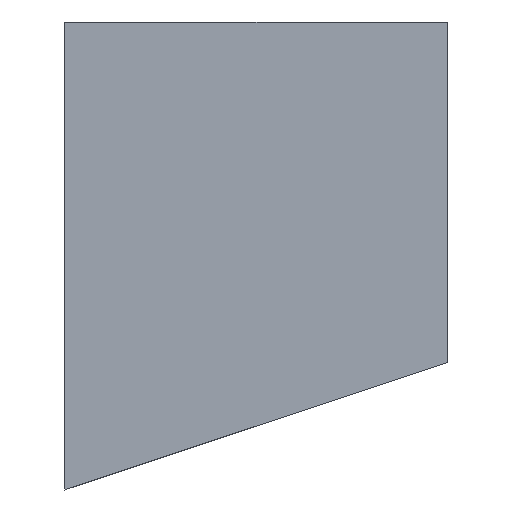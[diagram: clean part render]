
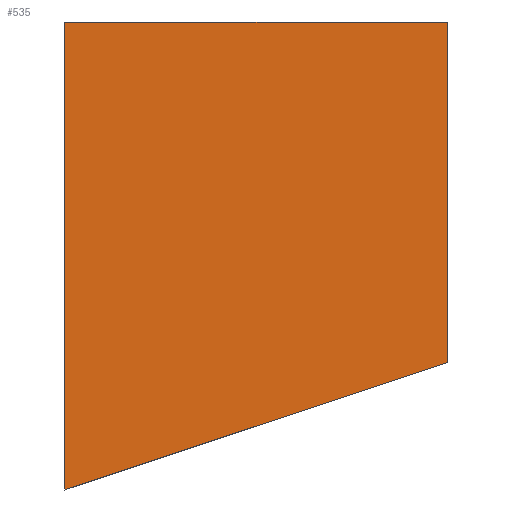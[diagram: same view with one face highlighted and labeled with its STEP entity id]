
A CAD part, left-side view. The second image highlights one B-rep face of the part: STEP entity #535.
In plain terms, the highlighted planar face has unit normal (-1, 0, 0).
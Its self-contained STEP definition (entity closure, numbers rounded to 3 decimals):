
#62=FACE_OUTER_BOUND('',#101,.T.);
#101=EDGE_LOOP('',(#477,#478,#479,#480));
#123=LINE('',#771,#186);
#137=LINE('',#799,#200);
#150=LINE('',#834,#213);
#164=LINE('',#863,#227);
#186=VECTOR('',#626,10.);
#200=VECTOR('',#650,10.);
#213=VECTOR('',#689,10.);
#227=VECTOR('',#717,10.);
#244=VERTEX_POINT('',#764);
#247=VERTEX_POINT('',#769);
#256=VERTEX_POINT('',#798);
#265=VERTEX_POINT('',#832);
#297=EDGE_CURVE('',#244,#247,#123,.T.);
#311=EDGE_CURVE('',#256,#244,#137,.T.);
#328=EDGE_CURVE('',#265,#247,#150,.T.);
#342=EDGE_CURVE('',#256,#265,#164,.T.);
#477=ORIENTED_EDGE('',*,*,#297,.T.);
#478=ORIENTED_EDGE('',*,*,#328,.F.);
#479=ORIENTED_EDGE('',*,*,#342,.F.);
#480=ORIENTED_EDGE('',*,*,#311,.T.);
#506=PLANE('',#584);
#535=ADVANCED_FACE('',(#62),#506,.F.);
#584=AXIS2_PLACEMENT_3D('',#864,#718,#719);
#626=DIRECTION('',(0.,-0.949,0.316));
#650=DIRECTION('',(0.,0.,-1.));
#689=DIRECTION('',(0.,0.,-1.));
#717=DIRECTION('',(0.,-1.,0.));
#718=DIRECTION('center_axis',(1.,0.,0.));
#719=DIRECTION('ref_axis',(0.,0.,-1.));
#764=CARTESIAN_POINT('',(0.,90.,-30.));
#769=CARTESIAN_POINT('',(0.,0.,0.));
#771=CARTESIAN_POINT('',(0.,59.25,-19.75));
#798=CARTESIAN_POINT('',(0.,90.,80.));
#799=CARTESIAN_POINT('',(0.,90.,40.));
#832=CARTESIAN_POINT('',(0.,0.,80.));
#834=CARTESIAN_POINT('',(0.,0.,40.));
#863=CARTESIAN_POINT('',(0.,45.,80.));
#864=CARTESIAN_POINT('Origin',(0.,45.,40.));
